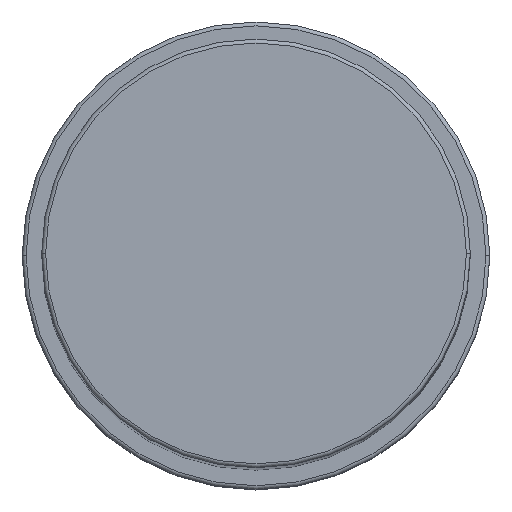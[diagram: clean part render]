
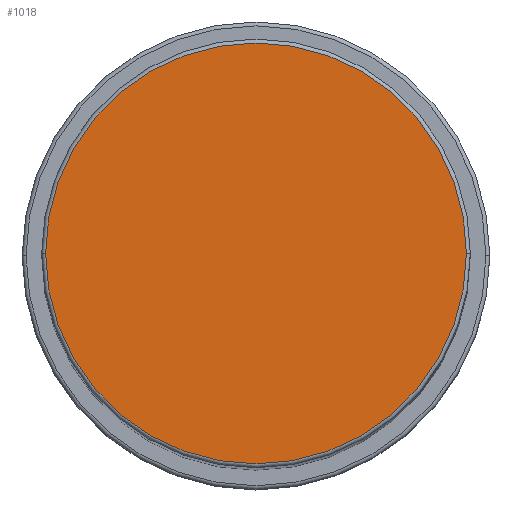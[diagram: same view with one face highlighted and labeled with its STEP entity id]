
A CAD part, top view. The second image highlights one B-rep face of the part: STEP entity #1018.
In plain terms, the highlighted planar face has unit normal (0, 0, 1).
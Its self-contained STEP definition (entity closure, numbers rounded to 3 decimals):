
#45 = DIRECTION ( 'NONE',  ( 0., 0., 1. ) ) ;
#211 = DIRECTION ( 'NONE',  ( 1., 0., 0. ) ) ;
#292 = EDGE_LOOP ( 'NONE', ( #424, #1408 ) ) ;
#351 = PLANE ( 'NONE',  #1304 ) ;
#356 = VERTEX_POINT ( 'NONE', #1336 ) ;
#424 = ORIENTED_EDGE ( 'NONE', *, *, #1521, .T. ) ;
#428 = CARTESIAN_POINT ( 'NONE',  ( 0., 0., 188. ) ) ;
#485 = EDGE_CURVE ( 'NONE', #356, #1339, #1134, .T. ) ;
#609 = FACE_OUTER_BOUND ( 'NONE', #292, .T. ) ;
#694 = CARTESIAN_POINT ( 'NONE',  ( 0., 0., 188. ) ) ;
#730 = AXIS2_PLACEMENT_3D ( 'NONE', #428, #1520, #1638 ) ;
#1018 = ADVANCED_FACE ( 'NONE', ( #609 ), #351, .T. ) ;
#1057 = DIRECTION ( 'NONE',  ( 0., 0., 1. ) ) ;
#1103 = CIRCLE ( 'NONE', #1947, 27. ) ;
#1134 = CIRCLE ( 'NONE', #730, 27. ) ;
#1216 = CARTESIAN_POINT ( 'NONE',  ( 0., 0., 188. ) ) ;
#1304 = AXIS2_PLACEMENT_3D ( 'NONE', #694, #45, #211 ) ;
#1336 = CARTESIAN_POINT ( 'NONE',  ( -27., 0., 188. ) ) ;
#1339 = VERTEX_POINT ( 'NONE', #1861 ) ;
#1408 = ORIENTED_EDGE ( 'NONE', *, *, #485, .T. ) ;
#1514 = DIRECTION ( 'NONE',  ( 1., 0., 0. ) ) ;
#1520 = DIRECTION ( 'NONE',  ( 0., 0., 1. ) ) ;
#1521 = EDGE_CURVE ( 'NONE', #1339, #356, #1103, .T. ) ;
#1638 = DIRECTION ( 'NONE',  ( 1., 0., 0. ) ) ;
#1861 = CARTESIAN_POINT ( 'NONE',  ( 27., 0., 188. ) ) ;
#1947 = AXIS2_PLACEMENT_3D ( 'NONE', #1216, #1057, #1514 ) ;
